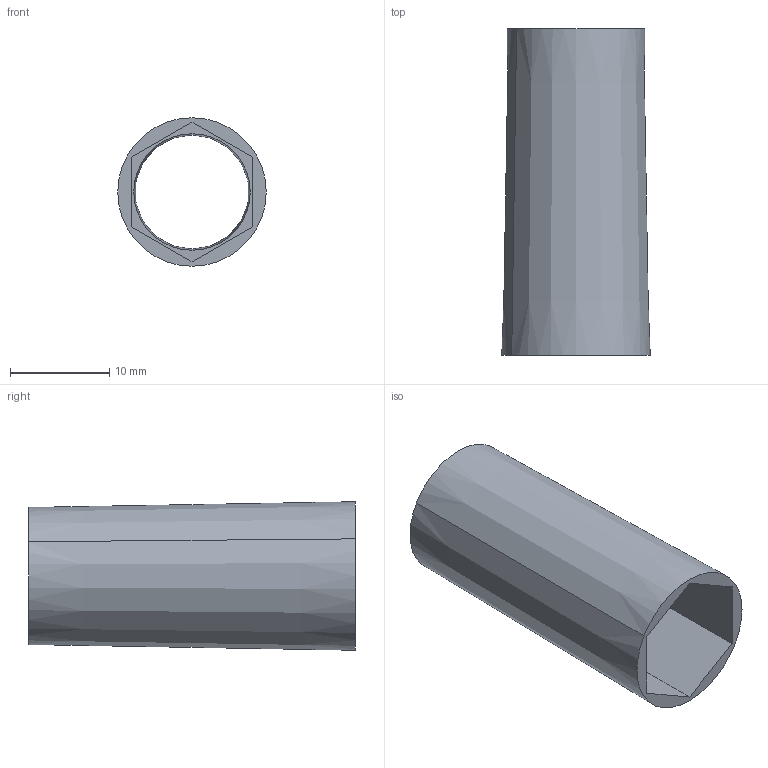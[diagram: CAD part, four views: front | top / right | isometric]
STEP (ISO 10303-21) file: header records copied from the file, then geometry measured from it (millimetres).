
FILE_DESCRIPTION (( 'STEP AP214' ), '1' );
FILE_NAME ('Abdeckhuelse 7600.STEP', '2010-09-07T12:36:31', ( 'grass' ), ( '' ), 'SwSTEP 2.0', 'SolidWorks 2010', '' );
FILE_SCHEMA (( 'AUTOMOTIVE_DESIGN' ));
Length unit declared in the file: millimetre
Products named in the file (1): Abdeckhuelse 7600
Bounding box: 15 x 33 x 15 mm (x, y, z)
Volume: 1481.2 mm3; surface area: 2919.2 mm2
Topology: 1 solids, 1 shells, 13 faces, 30 edges, 20 vertices
Faces by surface type: plane 9, cone 4
Entity records: 410 total; most frequent: DIRECTION 66, CARTESIAN_POINT 64, ORIENTED_EDGE 60, EDGE_CURVE 30, LINE 22, AXIS2_PLACEMENT_3D 22, VECTOR 22, VERTEX_POINT 20
